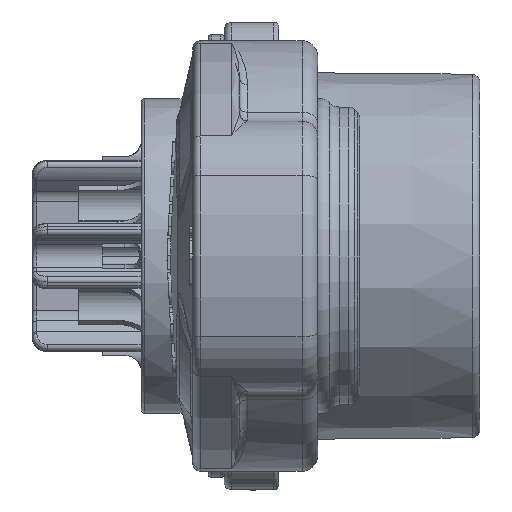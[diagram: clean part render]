
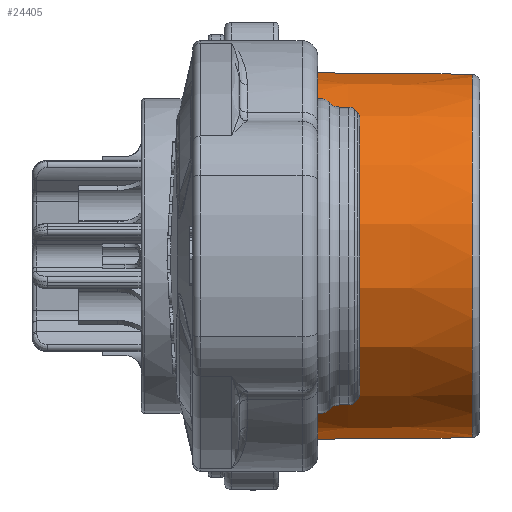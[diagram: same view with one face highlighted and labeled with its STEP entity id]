
A CAD part, front view. The second image highlights one B-rep face of the part: STEP entity #24405.
In plain terms, the highlighted conical face has half-angle 0.5 degrees and reference radius 11.65 mm.
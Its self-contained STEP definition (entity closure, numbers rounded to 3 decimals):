
#761 = CARTESIAN_POINT ( 'NONE',  ( -0.496, 0., 0. ) ) ;
#2461 = CARTESIAN_POINT ( 'NONE',  ( 0., 0., 11.65 ) ) ;
#3128 = EDGE_CURVE ( 'NONE', #46199, #43961, #8763, .T. ) ;
#8763 = CIRCLE ( 'NONE', #69447, 11.654 ) ;
#12306 = DIRECTION ( 'NONE',  ( 0., 0., 1. ) ) ;
#14771 = ORIENTED_EDGE ( 'NONE', *, *, #3128, .T. ) ;
#18658 = ORIENTED_EDGE ( 'NONE', *, *, #37980, .T. ) ;
#19055 = CARTESIAN_POINT ( 'NONE',  ( -12.404, 0., -11.758 ) ) ;
#20509 = AXIS2_PLACEMENT_3D ( 'NONE', #69321, #23507, #12306 ) ;
#22655 = VERTEX_POINT ( 'NONE', #41579 ) ;
#22657 = CARTESIAN_POINT ( 'NONE',  ( 0., 0., 0. ) ) ;
#23507 = DIRECTION ( 'NONE',  ( 1., 0., 0. ) ) ;
#24405 = ADVANCED_FACE ( 'NONE', ( #62140 ), #35178, .T. ) ;
#25840 = AXIS2_PLACEMENT_3D ( 'NONE', #22657, #33824, #50989 ) ;
#31915 = DIRECTION ( 'NONE',  ( -1., 0., 0. ) ) ;
#33757 = VECTOR ( 'NONE', #55592, 1000. ) ;
#33824 = DIRECTION ( 'NONE',  ( -1., 0., 0. ) ) ;
#34221 = CARTESIAN_POINT ( 'NONE',  ( -0.496, 0., -11.654 ) ) ;
#35178 = CONICAL_SURFACE ( 'NONE', #25840, 11.65, 0.009 ) ;
#37980 = EDGE_CURVE ( 'NONE', #43961, #22655, #53478, .T. ) ;
#41579 = CARTESIAN_POINT ( 'NONE',  ( -12.404, 0., 11.758 ) ) ;
#43110 = CIRCLE ( 'NONE', #20509, 11.758 ) ;
#43961 = VERTEX_POINT ( 'NONE', #70464 ) ;
#44362 = ORIENTED_EDGE ( 'NONE', *, *, #56704, .F. ) ;
#46199 = VERTEX_POINT ( 'NONE', #34221 ) ;
#47905 = DIRECTION ( 'NONE',  ( -1., 0., 0.009 ) ) ;
#48638 = VECTOR ( 'NONE', #47905, 1000. ) ;
#48937 = CARTESIAN_POINT ( 'NONE',  ( 0., 0., -11.65 ) ) ;
#50989 = DIRECTION ( 'NONE',  ( 0., 0., 1. ) ) ;
#51178 = VERTEX_POINT ( 'NONE', #19055 ) ;
#53478 = LINE ( 'NONE', #2461, #48638 ) ;
#54632 = DIRECTION ( 'NONE',  ( 0., 0., -1. ) ) ;
#55592 = DIRECTION ( 'NONE',  ( -1., 0., -0.009 ) ) ;
#56704 = EDGE_CURVE ( 'NONE', #46199, #51178, #59740, .T. ) ;
#59740 = LINE ( 'NONE', #48937, #33757 ) ;
#62140 = FACE_OUTER_BOUND ( 'NONE', #67182, .T. ) ;
#67182 = EDGE_LOOP ( 'NONE', ( #44362, #14771, #18658, #70489 ) ) ;
#69321 = CARTESIAN_POINT ( 'NONE',  ( -12.404, 0., 0. ) ) ;
#69447 = AXIS2_PLACEMENT_3D ( 'NONE', #761, #31915, #54632 ) ;
#70464 = CARTESIAN_POINT ( 'NONE',  ( -0.496, 0., 11.654 ) ) ;
#70489 = ORIENTED_EDGE ( 'NONE', *, *, #70741, .T. ) ;
#70741 = EDGE_CURVE ( 'NONE', #22655, #51178, #43110, .T. ) ;
